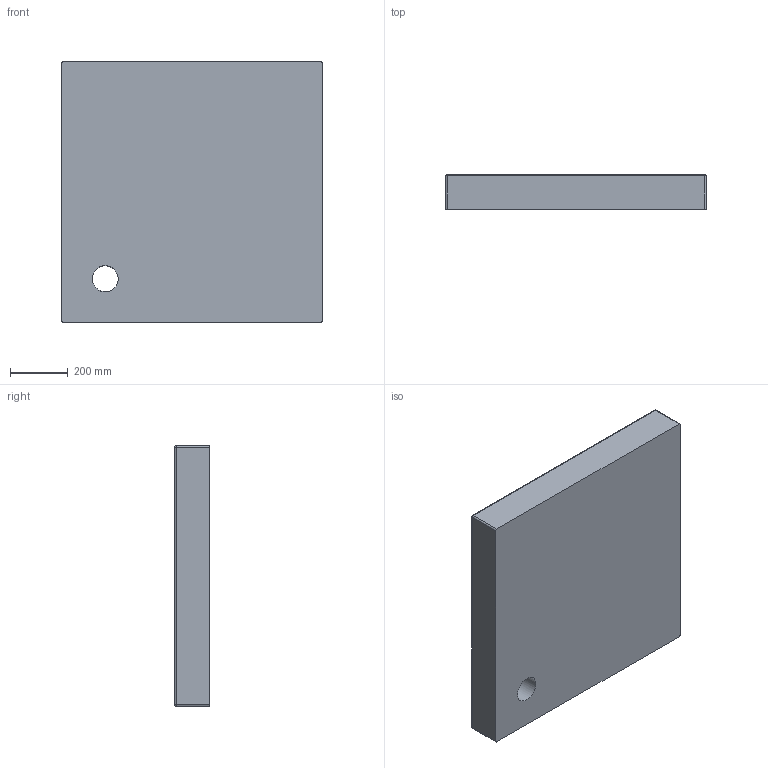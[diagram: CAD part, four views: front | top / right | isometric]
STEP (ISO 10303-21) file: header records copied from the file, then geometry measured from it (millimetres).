
FILE_DESCRIPTION(/* description */ (''),/* implementation_level */ '2;1');
FILE_NAME(/* name */ 'c:\worker\convert-fusion-r09\tmp\job-1\17\output\files\ab6cf862-f07d-4ba3-a0ab-4a6ef86ad3d1\2cdc4f08-3d8a-4a78-9de5-22e132e0cb12.stp',/* time_stamp */ '2020-01-03T09:44:05+00:00',/* author */ (''),/* organization */ (''),/* preprocessor_version */ 'ST-DEVELOPER v18',/* originating_system */ 'Autodesk Translation Framework v8.12.0.6',/* authorisation */ '');
FILE_SCHEMA (('AUTOMOTIVE_DESIGN { 1 0 10303 214 3 1 1 }'));
Length unit declared in the file: millimetre
Products named in the file (1): Camden 90/K
Bounding box: 900 x 120 x 900 mm (x, y, z)
Volume: 83321673.5 mm3; surface area: 2107927 mm2
Topology: 1 solids, 1 shells, 47 faces, 97 edges, 53 vertices
Faces by surface type: cylinder 20, plane 11, sphere 8, bspline 4, torus 4
Entity records: 1655 total; most frequent: CARTESIAN_POINT 621, DIRECTION 227, ORIENTED_EDGE 194, EDGE_CURVE 97, AXIS2_PLACEMENT_3D 91, VERTEX_POINT 53, EDGE_LOOP 50, FACE_OUTER_BOUND 47
